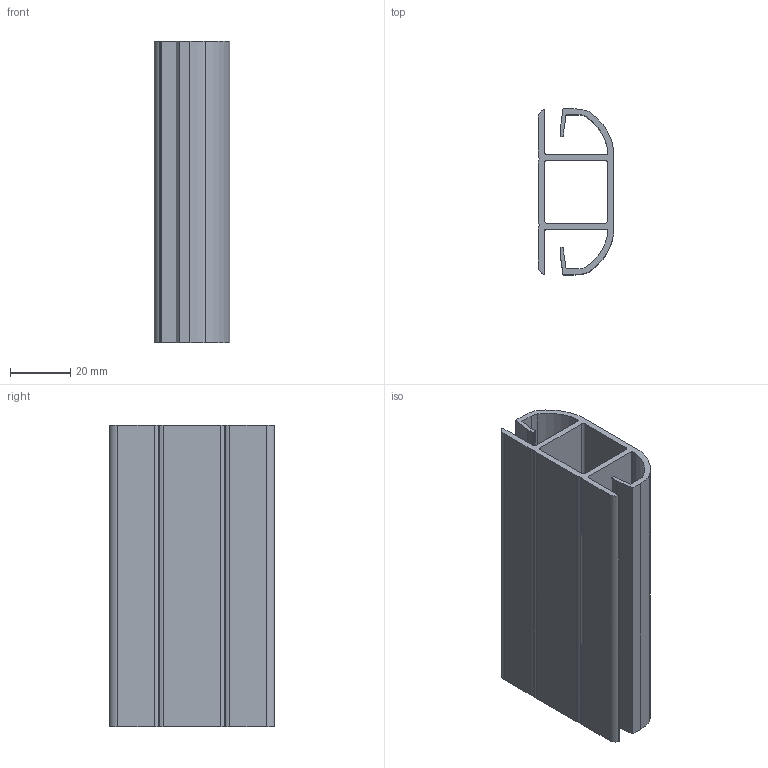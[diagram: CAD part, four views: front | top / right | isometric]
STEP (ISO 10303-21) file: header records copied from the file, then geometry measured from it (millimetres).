
FILE_DESCRIPTION (( 'STEP AP203' ), '1' );
FILE_NAME ('013.025.005.STEP', '2020-07-22T08:56:42', ( '' ), ( '' ), 'SwSTEP 2.0', 'SolidWorks 2018', '' );
FILE_SCHEMA (( 'CONFIG_CONTROL_DESIGN' ));
Length unit declared in the file: millimetre
Products named in the file (1): 013.025.005
Bounding box: 25 x 55 x 100 mm (x, y, z)
Volume: 35159.4 mm3; surface area: 37150.4 mm2
Topology: 1 solids, 1 shells, 60 faces, 174 edges, 116 vertices
Faces by surface type: plane 30, cylinder 26, bspline 4
Entity records: 2095 total; most frequent: CARTESIAN_POINT 403, ORIENTED_EDGE 348, DIRECTION 332, EDGE_CURVE 174, VERTEX_POINT 116, LINE 114, VECTOR 114, AXIS2_PLACEMENT_3D 109
